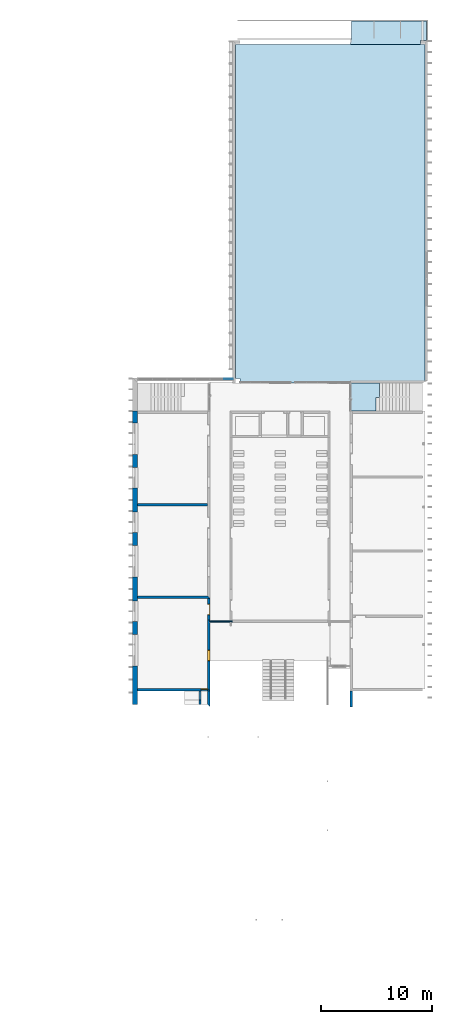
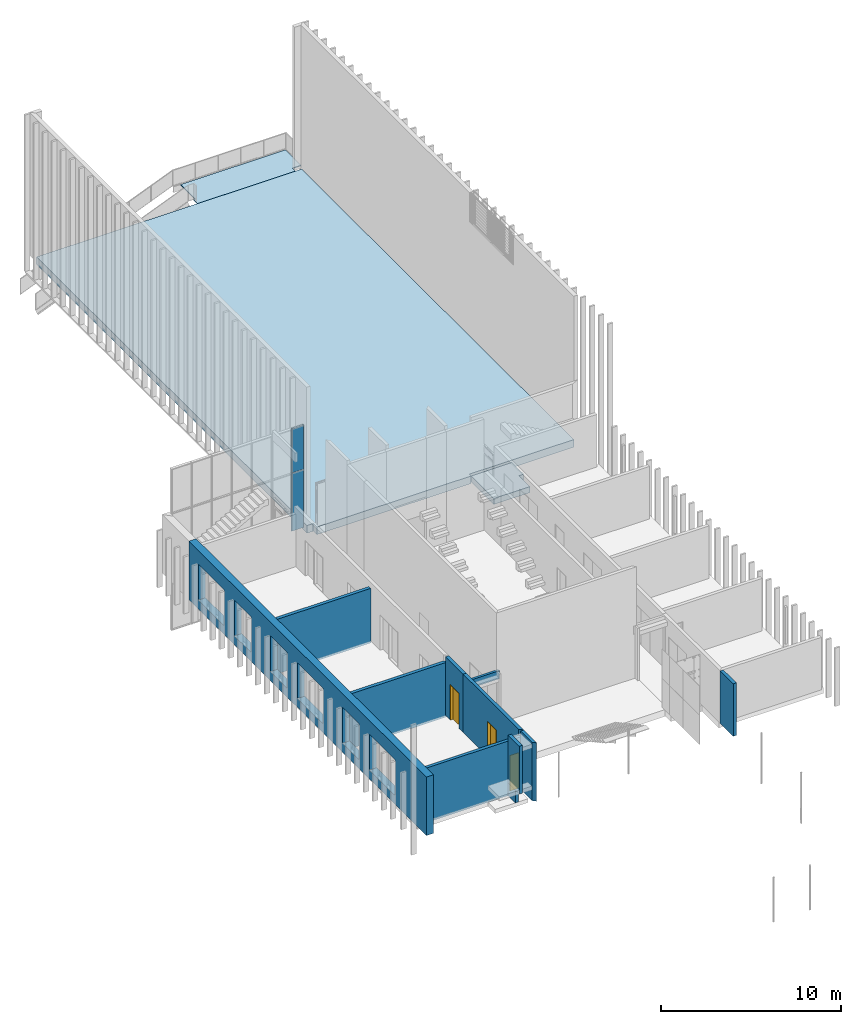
# One storey, part 10 of 62: 11 walls, 3 slabs, 2 doors, 2 plates, 1 window, 9 openings, 1 element without a shape of its own.
"""IFC2X3 building model written with IfcOpenShell, lengths in millimetres."""

from ifc_helpers import new_model, entity, si_unit, converted_unit, derived_unit, money_unit, direction, frame, origin_with_axes, origin_2d_with_axis, place, context, subcontext, project, spatial, polyline, rectangle, outline, extrude, open_shell, faceted_brep, surface_model, source, transform, mapped, material, layer, layer_set, layer_usage, type_object, element, fill, aggregate, save


model = new_model("IFC2X3")

# Units and contexts
model_context = context("Model", 3, precision=0.01, world=origin_with_axes(), true_north=direction((0.0, 1.0)))
body_context = subcontext(model_context, "Body", "Model", "MODEL_VIEW")
ifc_project = project(units=[si_unit("LENGTHUNIT", "METRE", prefix="MILLI"), si_unit("AREAUNIT", "SQUARE_METRE"), si_unit("VOLUMEUNIT", "CUBIC_METRE"), converted_unit("PLANEANGLEUNIT", "DEGREE", entity("IfcPlaneAngleMeasure", 0.0174532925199), si_unit("PLANEANGLEUNIT", "RADIAN"), dimensions=[0, 0, 0, 0, 0, 0, 0]), si_unit("SOLIDANGLEUNIT", "STERADIAN"), money_unit("EUR"), converted_unit("TIMEUNIT", "Year", entity("IfcTimeMeasure", 31556926.0), si_unit("TIMEUNIT", "SECOND"), dimensions=[0, 0, 1, 0, 0, 0, 0]), si_unit("MASSUNIT", "GRAM", prefix="KILO"), si_unit("THERMODYNAMICTEMPERATUREUNIT", "DEGREE_CELSIUS"), si_unit("LUMINOUSINTENSITYUNIT", "LUMEN"), si_unit("ENERGYUNIT", "JOULE", prefix="MEGA"), derived_unit("THERMALCONDUCTANCEUNIT", [(si_unit("POWERUNIT", "WATT"), 1), (si_unit("LENGTHUNIT", "METRE"), -1), (si_unit("THERMODYNAMICTEMPERATUREUNIT", "KELVIN"), -1)]), derived_unit("SPECIFICHEATCAPACITYUNIT", [(si_unit("ENERGYUNIT", "JOULE"), 1), (si_unit("MASSUNIT", "GRAM", prefix="KILO"), -1), (si_unit("THERMODYNAMICTEMPERATUREUNIT", "KELVIN"), -1)]), derived_unit("MASSDENSITYUNIT", [(si_unit("MASSUNIT", "GRAM", prefix="KILO"), 1), (si_unit("VOLUMEUNIT", "CUBIC_METRE"), -1)])], contexts=[model_context])

# Site, building, storey
site_placement = place(None, origin_with_axes())
site = spatial("IfcSite", under=ifc_project, at=site_placement, Name="Puškini 31, Narva", CompositionType="ELEMENT")
building_placement = place(site_placement, origin_with_axes())
building = spatial("IfcBuilding", under=site, at=building_placement, Name="Narva Riigigümnaasium", CompositionType="ELEMENT")
storey_placement = place(building_placement, frame((0.0, 0.0, 660.0), z_axis=(0.0, 0.0, 1.0), x_axis=(1.0, 0.0, 0.0)))
storey = spatial("IfcBuildingStorey", under=building, at=storey_placement, Name="2.korrus +0.66", CompositionType="ELEMENT", Elevation=660.0)

# Curtain wall, plates
curtain_wall_type = type_object("IfcCurtainWallType", Name="Curtain Wall Type", PredefinedType="NOTDEFINED")
curtain_wall_placement = place(storey_placement, frame((29287.8078111, 224154.987122, -3960.0), z_axis=(0.0, 0.0, 1.0), x_axis=(1.0, 0.0, 0.0)))
curtain_wall = element("IfcCurtainWall", 1, at=curtain_wall_placement, inside=storey, type_object=curtain_wall_type, Name="G-KLF-05")
ifc_material_1 = material(Name="Klaas")
plate_type_1 = type_object("IfcPlateType", Name="Main Panel 34 x 2985 x 58", PredefinedType="CURTAIN_PANEL")
plate_1_placement = place(curtain_wall_placement, frame((7400.43847665, 0.0, 9435.00001863), z_axis=(0.0, 0.0, 1.0), x_axis=(1.0, 0.0, 0.0)))
plate_1 = element("IfcPlate", 2, at=plate_1_placement, type_object=plate_type_1, material=ifc_material_1, Name="klaasfassaadi klaas", ObjectType="CURTAIN_PANEL", context=body_context, shape_type="SweptSolid", body=[
    extrude(outline(polyline([(-504.293084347, -1480.00002535), (256.753772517, -1480.00002535), (256.753862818, 1505.000027), (-504.293084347, 1505.000027), (-504.293084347, -1480.00002535)])), frame((0.0, -29.0, 0.0), z_axis=(0.0, 1.0, 0.0), x_axis=(1.0, 0.0, 0.0)), (0.0, 0.0, 1.0), 58.0),
])
plate_type_2 = type_object("IfcPlateType", Name="Main Panel 34 x 3940 x 58", PredefinedType="CURTAIN_PANEL")
plate_2_placement = place(curtain_wall_placement, frame((7400.43848407, 0.0, 5940.0), z_axis=(0.0, 0.0, 1.0), x_axis=(1.0, 0.0, 0.0)))
plate_2 = element("IfcPlate", 3, at=plate_2_placement, type_object=plate_type_2, material=ifc_material_1, Name="klaasfassaadi klaas", ObjectType="CURTAIN_PANEL", context=body_context, shape_type="SweptSolid", body=[
    extrude(outline(polyline([(-504.293082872, -1969.99998033), (256.753868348, -1969.99998033), (256.753868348, 1969.99998033), (-504.29314188, 1969.99998033), (-504.293082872, -1969.99998033)])), frame((0.0, -29.0, 0.0), z_axis=(0.0, 1.0, 0.0), x_axis=(1.0, 0.0, 0.0)), (0.0, 0.0, 1.0), 58.0),
])
aggregate(curtain_wall, [plate_1, plate_2])

# Slabs
ifc_material_2 = material(Name="KON-04_Betoon - Konstuktsioon")
ifc_layer_1 = layer(ifc_material_2, 90.0, ventilated="UNKNOWN")
ifc_material_3 = material(Name="SOJ-04_Soojustus - Mineraal Kõva")
ifc_layer_2 = layer(ifc_material_3, 30.0, ventilated="UNKNOWN")
ifc_material_4 = material(Name="SOJ-06_Soojustus - Plastik Kõva")
ifc_layer_3 = layer(ifc_material_4, 20.0, ventilated="UNKNOWN")
ifc_material_5 = material(Name="Betoon element")
ifc_layer_4 = layer(ifc_material_5, 265.0, ventilated="UNKNOWN")
ifc_layer_set_1 = layer_set([ifc_layer_1, ifc_layer_2, ifc_layer_3, ifc_layer_4], Name="G-VL-02*")
ifc_layer_usage_1 = layer_usage(ifc_layer_set_1, "AXIS3", "NEGATIVE", 405.0)
slab_type_1 = type_object("IfcSlabType", Name="G-VL-02* 405", PredefinedType="NOTDEFINED")
slab_1_placement = place(storey_placement, frame((47499.9999936, 223799.999988, 0.0), z_axis=(0.0, 0.0, 1.0), x_axis=(1.0, 0.0, 0.0)))
element("IfcSlab", 4, at=slab_1_placement, inside=storey, type_object=slab_type_1, material=ifc_layer_usage_1, Name="Vahelagi", PredefinedType="NOTDEFINED", context=body_context, shape_type="SweptSolid", body=[
    extrude(outline(polyline([(0.0, 0.0), (0.0, -2519.99998969), (2308.91774758, -2519.99998969), (2308.91774758, -1310.00002088), (2609.99972542, -1310.00002088), (2609.99972542, 0.0), (0.0, 0.0)])), frame((0.0, 0.0, -405.0), z_axis=(0.0, 0.0, 1.0), x_axis=(1.0, 0.0, 0.0)), (0.0, 0.0, 1.0), 405.0),
])
ifc_material_6 = material(Name="Puit - Põrand")
ifc_layer_5 = layer(ifc_material_6, 20.0, ventilated="UNKNOWN")
ifc_material_7 = material(Name="Karkass")
ifc_layer_6 = layer(ifc_material_7, 33.0, ventilated="UNKNOWN")
ifc_layer_7 = layer(ifc_material_7, 12.0, ventilated="UNKNOWN")
ifc_layer_8 = layer(ifc_material_2, 80.0, ventilated="UNKNOWN")
ifc_layer_9 = layer(ifc_material_5, 320.0, ventilated="UNKNOWN")
ifc_layer_set_2 = layer_set([ifc_layer_5, ifc_layer_6, ifc_layer_7, ifc_layer_8, ifc_layer_2, ifc_layer_3, ifc_layer_9], Name="G-VL-01")
ifc_layer_usage_2 = layer_usage(ifc_layer_set_2, "AXIS3", "NEGATIVE", 515.0)
slab_type_2 = type_object("IfcSlabType", Name="G-VL-01 515", PredefinedType="NOTDEFINED")
slab_2_placement = place(storey_placement, frame((37202.0, 254230.0, 0.0), z_axis=(0.0, 0.0, 1.0), x_axis=(1.0, 0.0, 0.0)))
element("IfcSlab", 5, at=slab_2_placement, inside=storey, type_object=slab_type_2, material=ifc_layer_usage_2, Name="Vahelagi", PredefinedType="NOTDEFINED", context=body_context, shape_type="SweptSolid", body=[
    extrude(outline(polyline([(0.0, 0.0), (0.0, -30029.9999795), (398.000007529, -30029.9999945), (397.999992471, -30429.9999934), (10298.0000003, -30429.9999784), (10298.0, -30229.9999801), (16997.9999877, -30229.9999801), (16997.9999877, 0.0), (0.0, 0.0)])), frame((0.0, 0.0, -515.0), z_axis=(0.0, 0.0, 1.0), x_axis=(1.0, 0.0, 0.0)), (0.0, 0.0, 1.0), 515.0),
])
ifc_material_8 = material(Name="ET-06_Teras - Konstruktsioon")
ifc_layer_10 = layer(ifc_material_8, 50.0, ventilated="UNKNOWN")
ifc_layer_set_3 = layer_set([ifc_layer_10], Name="ET-06_Teras - Konstruktsioon 50")
ifc_layer_usage_3 = layer_usage(ifc_layer_set_3, "AXIS3", "NEGATIVE", 50.0)
slab_type_3 = type_object("IfcSlabType", Name="ET-06_Teras - Konstruktsioon 50", PredefinedType="NOTDEFINED")
slab_3_placement = place(storey_placement, frame((47630.0000007, 256300.0, 0.0), z_axis=(0.0, 0.0, 1.0), x_axis=(1.0, 0.0, 0.0)))
element("IfcSlab", 6, at=slab_3_placement, inside=storey, type_object=slab_type_3, material=ifc_layer_usage_3, Name="Trepimade", PredefinedType="NOTDEFINED", context=body_context, shape_type="SweptSolid", body=[
    extrude(outline(polyline([(0.0, 0.0), (0.0, -1640.0), (-114.038544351, -1640.0), (-114.038544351, -2070.00000032), (6170.00000107, -2070.00000032), (6170.00000107, -1731.1941455), (6718.000001, -1731.1941455), (6718.000001, 0.0), (0.0, 0.0)])), frame((0.0, 0.0, -50.0), z_axis=(0.0, 0.0, 1.0), x_axis=(1.0, 0.0, 0.0)), (0.0, 0.0, 1.0), 50.0),
])

# Wall, openings
ifc_material_9 = material(Name="fassaadiplaat")
ifc_layer_11 = layer(ifc_material_9, 8.0, ventilated="UNKNOWN")
ifc_material_10 = material(Name="Salto-roovitus")
ifc_layer_12 = layer(ifc_material_10, 50.0, ventilated="UNKNOWN")
ifc_material_11 = material(Name="Salto-PIR soojustus")
ifc_layer_13 = layer(ifc_material_11, 50.0, ventilated="UNKNOWN")
ifc_layer_14 = layer(ifc_material_11, 150.0, ventilated="UNKNOWN")
ifc_layer_15 = layer(ifc_material_5, 200.0, ventilated="UNKNOWN")
ifc_material_12 = material(Name="Salto-siseviimistlus-seinad")
ifc_layer_16 = layer(ifc_material_12, 10.0, ventilated="UNKNOWN")
ifc_layer_set_4 = layer_set([ifc_layer_11, ifc_layer_12, ifc_layer_13, ifc_layer_14, ifc_layer_15, ifc_layer_16], Name="G-VS-01")
ifc_layer_usage_4 = layer_usage(ifc_layer_set_4, "AXIS2", "NEGATIVE", 458.0)
wall_type_1 = type_object("IfcWallType", Name="G-VS-01 468", PredefinedType="NOTDEFINED")
wall_1_placement = place(storey_placement, frame((28400.0401775, 194899.999976, 0.0), z_axis=(0.0, 0.0, 1.0), x_axis=(0.0, 1.0, 0.0)))
wall_1 = element("IfcWallStandardCase", 7, at=wall_1_placement, inside=storey, type_object=wall_type_1, material=ifc_layer_usage_4, Name="Välissein", context=body_context, shape_type="SweptSolid", body=[
    extrude(outline(polyline([(2.37781989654e-05, -10.0), (26380.0000226, -10.0), (26380.0000226, 458.0), (2.37781989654e-05, 458.0), (2.37781989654e-05, -10.0)])), origin_with_axes(), (0.0, 0.0, 1.0), 3960.0),
])
opening_1_placement = place(wall_1_placement, frame((23900.0000267, 0.0, 600.0), z_axis=(0.0, 0.0, 1.0), x_axis=(1.0, 0.0, 0.0)))
element("IfcOpeningElement", 8, at=opening_1_placement, cuts=wall_1, Name="G-A-38", context=body_context, shape_type="SweptSolid", body=[
    extrude(rectangle(XDim=2849.99999873, YDim=2430.0, at=origin_2d_with_axis()), frame((0.0, 308.0, 1215.0), z_axis=(0.0, 1.0, 0.0), x_axis=(-1.0, 0.0, 0.0)), (0.0, 0.0, -1.0), 786.0),
    extrude(rectangle(XDim=2849.99999873, YDim=2430.0, at=origin_2d_with_axis()), frame((0.0, 308.0, 1215.0), z_axis=(0.0, -1.0, 0.0), x_axis=(-1.0, 0.0, 0.0)), (0.0, 0.0, -1.0), 618.0),
])
opening_2_placement = place(wall_1_placement, frame((16400.00003, 0.0, 600.0), z_axis=(0.0, 0.0, 1.0), x_axis=(1.0, 0.0, 0.0)))
element("IfcOpeningElement", 9, at=opening_2_placement, cuts=wall_1, Name="G-A-36", context=body_context, shape_type="SweptSolid", body=[
    extrude(rectangle(XDim=1849.99999918, YDim=2430.0, at=origin_2d_with_axis()), frame((0.0, 308.0, 1215.0), z_axis=(0.0, 1.0, 0.0), x_axis=(-1.0, 0.0, 0.0)), (0.0, 0.0, -1.0), 786.0),
    extrude(rectangle(XDim=1849.99999918, YDim=2430.0, at=origin_2d_with_axis()), frame((0.0, 308.0, 1215.0), z_axis=(0.0, -1.0, 0.0), x_axis=(-1.0, 0.0, 0.0)), (0.0, 0.0, -1.0), 618.0),
])
opening_3_placement = place(wall_1_placement, frame((8400.005406, 0.0, 600.0), z_axis=(0.0, 0.0, 1.0), x_axis=(1.0, 0.0, 0.0)))
element("IfcOpeningElement", 10, at=opening_3_placement, cuts=wall_1, Name="G-A-36", context=body_context, shape_type="SweptSolid", body=[
    extrude(rectangle(XDim=1850.0, YDim=2430.0, at=origin_2d_with_axis()), frame((0.0, 308.0, 1215.0), z_axis=(0.0, 1.0, 0.0), x_axis=(-1.0, 0.0, 0.0)), (0.0, 0.0, -1.0), 786.0),
    extrude(rectangle(XDim=1850.0, YDim=2430.0, at=origin_2d_with_axis()), frame((0.0, 308.0, 1215.0), z_axis=(0.0, -1.0, 0.0), x_axis=(-1.0, 0.0, 0.0)), (0.0, 0.0, -1.0), 618.0),
])
opening_4_placement = place(wall_1_placement, frame((20400.0000282, 0.0, 600.0), z_axis=(0.0, 0.0, 1.0), x_axis=(1.0, 0.0, 0.0)))
element("IfcOpeningElement", 11, at=opening_4_placement, cuts=wall_1, Name="G-A-36", context=body_context, shape_type="SweptSolid", body=[
    extrude(rectangle(XDim=1849.99999918, YDim=2430.0, at=origin_2d_with_axis()), frame((0.0, 308.0, 1215.0), z_axis=(0.0, -1.0, 0.0), x_axis=(1.0, 0.0, 0.0)), (0.0, 0.0, 1.0), 786.0),
    extrude(rectangle(XDim=1849.99999918, YDim=2430.0, at=origin_2d_with_axis()), frame((0.0, 308.0, 1215.0), z_axis=(0.0, 1.0, 0.0), x_axis=(1.0, 0.0, 0.0)), (0.0, 0.0, 1.0), 618.0),
])
opening_5_placement = place(wall_1_placement, frame((12900.0000316, 0.0, 600.0), z_axis=(0.0, 0.0, 1.0), x_axis=(1.0, 0.0, 0.0)))
element("IfcOpeningElement", 12, at=opening_5_placement, cuts=wall_1, Name="G-A-38", context=body_context, shape_type="SweptSolid", body=[
    extrude(rectangle(XDim=2849.99999873, YDim=2430.0, at=origin_2d_with_axis()), frame((0.0, 308.0, 1215.0), z_axis=(0.0, -1.0, 0.0), x_axis=(1.0, 0.0, 0.0)), (0.0, 0.0, 1.0), 786.0),
    extrude(rectangle(XDim=2849.99999873, YDim=2430.0, at=origin_2d_with_axis()), frame((0.0, 308.0, 1215.0), z_axis=(0.0, 1.0, 0.0), x_axis=(1.0, 0.0, 0.0)), (0.0, 0.0, 1.0), 618.0),
])
opening_6_placement = place(wall_1_placement, frame((4900.00003512, 0.0, 600.0), z_axis=(0.0, 0.0, 1.0), x_axis=(1.0, 0.0, 0.0)))
element("IfcOpeningElement", 13, at=opening_6_placement, cuts=wall_1, Name="G-A-38", context=body_context, shape_type="SweptSolid", body=[
    extrude(rectangle(XDim=2849.99999873, YDim=2430.0, at=origin_2d_with_axis()), frame((0.0, 308.0, 1215.0), z_axis=(0.0, -1.0, 0.0), x_axis=(1.0, 0.0, 0.0)), (0.0, 0.0, 1.0), 786.0),
    extrude(rectangle(XDim=2849.99999873, YDim=2430.0, at=origin_2d_with_axis()), frame((0.0, 308.0, 1215.0), z_axis=(0.0, 1.0, 0.0), x_axis=(1.0, 0.0, 0.0)), (0.0, 0.0, 1.0), 618.0),
])

# Wall, opening, door
ifc_layer_set_5 = layer_set([ifc_layer_15], Name="G-SS-01")
ifc_layer_usage_5 = layer_usage(ifc_layer_set_5, "AXIS2", "POSITIVE", 0.0)
wall_type_2 = type_object("IfcWallType", Name="G-SS-01 200", PredefinedType="NOTDEFINED")
wall_2_placement = place(storey_placement, frame((28400.0401775, 196149.999994, -140.0), z_axis=(0.0, 0.0, 1.0), x_axis=(1.0, 0.0, 0.0)))
wall_2 = element("IfcWallStandardCase", 14, at=wall_2_placement, inside=storey, type_object=wall_type_2, material=ifc_layer_usage_5, Name="Sisesein", context=body_context, shape_type="SweptSolid", body=[
    extrude(outline(polyline([(10.0, 0.0), (6499.95955941, 0.0), (6289.95955941, 200.0), (10.0, 200.0), (10.0, 0.0)])), origin_with_axes(), (0.0, 0.0, 1.0), 3700.0),
])
opening_7_placement = place(wall_2_placement, frame((5999.95981615, 0.0, 140.0), z_axis=(0.0, 0.0, 1.0), x_axis=(1.0, 0.0, 0.0)))
opening_7 = element("IfcOpeningElement", 15, at=opening_7_placement, cuts=wall_2, Name="G-SU-096", context=body_context, shape_type="SweptSolid", body=[
    extrude(rectangle(XDim=600.000011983, YDim=2400.0, at=origin_2d_with_axis()), frame((0.0, -200.0, 1200.0), z_axis=(0.0, 1.0, 0.0), x_axis=(1.0, 0.0, 0.0)), (0.0, 0.0, 1.0), 600.0),
])
door_style_1 = type_object("IfcDoorStyle", Name="Door 23", ConstructionType="NOTDEFINED", OperationType="SINGLE_SWING_RIGHT", ParameterTakesPrecedence=False, Sizeable=False)
shared_shape_1 = source(origin_with_axes(), body_context, "Body", "Brep", [
    faceted_brep([(-300.000005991, 0.0, 0.0), (-258.000005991, 0.0, 0.0), (-258.000005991, -40.0, 0.0), (-300.000005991, -40.0, 0.0), (-300.000005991, 0.0, 2358.0), (-258.000005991, 0.0, 2358.0), (-258.000005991, -40.0, 2358.0), (-300.000005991, -40.0, 2358.0)], [[[0, 1, 2, 3]], [[0, 4, 5, 1]], [[1, 5, 6, 2]], [[3, 2, 6, 7]], [[4, 0, 3, 7]], [[5, 4, 7, 6]]]),
    faceted_brep([(300.000005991, 0.0, 0.0), (300.000005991, 0.0, 2358.0), (300.000005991, -40.0, 2358.0), (300.000005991, -40.0, 0.0), (258.000005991, 0.0, 0.0), (258.000005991, 0.0, 2358.0), (258.000005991, -40.0, 2358.0), (258.000005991, -40.0, 0.0)], [[[0, 1, 2, 3]], [[0, 4, 5, 1]], [[1, 5, 6, 2]], [[3, 2, 6, 7]], [[4, 0, 3, 7]], [[5, 4, 7, 6]]]),
    faceted_brep([(-300.000005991, 0.0, 2400.0), (-300.000005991, 0.0, 2358.0), (-300.000005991, -40.0, 2358.0), (-300.000005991, -40.0, 2400.0), (300.000005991, 0.0, 2400.0), (300.000005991, 0.0, 2358.0), (258.000005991, 0.0, 2358.0), (-258.000005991, 0.0, 2358.0), (-258.000005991, -40.0, 2358.0), (258.000005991, -40.0, 2358.0), (300.000005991, -40.0, 2358.0), (300.000005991, -40.0, 2400.0)], [[[0, 1, 2, 3]], [[0, 4, 5, 6, 7, 1]], [[1, 7, 8, 2]], [[3, 2, 8, 9, 10, 11]], [[4, 0, 3, 11]], [[5, 4, 11, 10]], [[6, 5, 10, 9]], [[7, 6, 9, 8]]]),
    faceted_brep([(258.000005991, 0.0, 0.0), (258.000005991, -40.0, 0.0), (-258.000005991, -40.0, 0.0), (-258.000005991, 0.0, 0.0), (258.000005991, 0.0, 2358.0), (258.000005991, -40.0, 2358.0), (-258.000005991, -40.0, 2358.0), (-258.000005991, 0.0, 2358.0)], [[[0, 1, 2, 3]], [[4, 5, 1, 0]], [[1, 5, 6, 2]], [[3, 2, 6, 7]], [[0, 3, 7, 4]], [[7, 6, 5, 4]]]),
])
door_1_placement = place(opening_7_placement, frame((-300.000005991, 0.0, 0.0), z_axis=(0.0, 0.0, 1.0), x_axis=(1.0, 0.0, 0.0)))
door_1 = element("IfcDoor", 16, at=door_1_placement, inside=storey, type_object=door_style_1, Name="G-SU-096", ObjectType="DOOR", OverallHeight=2400.0, OverallWidth=600.0, context=body_context, shape_type="MappedRepresentation", body=[
    mapped(shared_shape_1, transform((300.000005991, 200.0, 0.0))),
])
fill(opening_7, door_1)

# Walls
wall_3_placement = place(storey_placement, frame((47499.9999936, 196149.999994, 0.0), z_axis=(0.0, 0.0, 1.0), x_axis=(0.0, -1.0, 0.0)))
element("IfcWallStandardCase", 17, at=wall_3_placement, inside=storey, type_object=wall_type_2, material=ifc_layer_usage_5, Name="Sisesein", context=body_context, shape_type="SweptSolid", body=[
    extrude(outline(polyline([(0.0, 0.0), (1449.99999437, 0.0), (1449.99999437, 200.0), (0.0, 200.0), (0.0, 0.0)])), origin_with_axes(), (0.0, 0.0, 1.0), 3555.0),
])
ifc_layer_usage_6 = layer_usage(ifc_layer_set_5, "AXIS2", "NEGATIVE", 0.0)
wall_4_placement = place(storey_placement, frame((34899.9999932, 196149.999994, 0.0), z_axis=(0.0, 0.0, 1.0), x_axis=(0.0, -1.0, 0.0)))
element("IfcWallStandardCase", 18, at=wall_4_placement, inside=storey, type_object=wall_type_2, material=ifc_layer_usage_6, Name="Sisesein", context=body_context, shape_type="SweptSolid", body=[
    extrude(outline(polyline([(0.0, -200.0), (1249.99999437, -200.0), (1449.99999437, 0.0), (0.0, 0.0), (0.0, -200.0)])), origin_with_axes(), (0.0, 0.0, 1.0), 3960.0),
])
wall_5_placement = place(storey_placement, frame((34100.0, 194900.0, 720.0), z_axis=(0.0, 0.0, 1.0), x_axis=(0.0, 1.0, 0.0)))
element("IfcWallStandardCase", 19, at=wall_5_placement, inside=storey, type_object=wall_type_2, material=ifc_layer_usage_5, Name="Sisesein", context=body_context, shape_type="SweptSolid", body=[
    extrude(outline(polyline([(0.0, 0.0), (1249.99999437, 0.0), (1249.99999437, 200.0), (0.0, 200.0), (0.0, 0.0)])), origin_with_axes(), (0.0, 0.0, 1.0), 3240.0),
])
wall_6_placement = place(storey_placement, frame((34100.0, 195340.000001, -140.0), z_axis=(0.0, 0.0, 1.0), x_axis=(0.0, 1.0, 0.0)))
element("IfcWallStandardCase", 20, at=wall_6_placement, inside=storey, type_object=wall_type_2, material=ifc_layer_usage_5, Name="Sisesein", context=body_context, shape_type="SweptSolid", body=[
    extrude(outline(polyline([(-7.52748974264e-07, 0.0), (809.999993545, 0.0), (809.999993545, 200.0), (-7.52748974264e-07, 200.0), (-7.52748974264e-07, 0.0)])), origin_with_axes(), (0.0, 0.0, 1.0), 860.0),
])
ifc_material_13 = material(Name="SKR-02_Kipsplaat")
ifc_layer_17 = layer(ifc_material_13, 12.5, ventilated="UNKNOWN")
ifc_material_14 = material(Name="SOJ-03_Soojustus - Mineraal Pehme")
ifc_layer_18 = layer(ifc_material_14, 100.0, ventilated="UNKNOWN")
ifc_layer_set_6 = layer_set([ifc_layer_17, ifc_layer_17, ifc_layer_18, ifc_layer_17, ifc_layer_17], Name="G-SS-09")
ifc_layer_usage_7 = layer_usage(ifc_layer_set_6, "AXIS2", "NEGATIVE", 0.0)
wall_type_3 = type_object("IfcWallType", Name="G-SS-09 150", PredefinedType="NOTDEFINED")
wall_7_placement = place(storey_placement, frame((36899.9999995, 202300.000012, 3005.0), z_axis=(0.0, 0.0, 1.0), x_axis=(-1.0, 0.0, 0.0)))
element("IfcWallStandardCase", 21, at=wall_7_placement, inside=storey, type_object=wall_type_3, material=ifc_layer_usage_7, Name="Sisesein", context=body_context, shape_type="SweptSolid", body=[
    extrude(outline(polyline([(0.0, -150.0), (2000.00026253, -150.0), (2000.00026253, 0.0), (0.0, 0.0), (0.0, -150.0)])), origin_with_axes(), (0.0, 0.0, 1.0), 550.0),
])

# Wall, opening, window
ifc_material_15 = material(Name="siseviimistlus-seinad")
ifc_layer_19 = layer(ifc_material_15, 10.0, ventilated="UNKNOWN")
ifc_layer_set_7 = layer_set([ifc_layer_15, ifc_layer_19], Name="G-SS-01-02")
ifc_layer_usage_8 = layer_usage(ifc_layer_set_7, "AXIS2", "NEGATIVE", 0.0)
wall_type_4 = type_object("IfcWallType", Name="G-SS-01-02 210", PredefinedType="NOTDEFINED")
wall_8_placement = place(storey_placement, frame((34899.9997369, 202510.000012, 0.0), z_axis=(0.0, 0.0, 1.0), x_axis=(0.0, -1.0, 0.0)))
wall_8 = element("IfcWallStandardCase", 22, at=wall_8_placement, inside=storey, type_object=wall_type_4, material=ifc_layer_usage_8, Name="Sisesein", context=body_context, shape_type="SweptSolid", body=[
    extrude(outline(polyline([(3.53639961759e-06, -210.0), (6160.00001804, -210.0), (6360.00001804, 0.0), (0.0, 0.0), (3.53639961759e-06, -210.0)])), origin_with_axes(), (0.0, 0.0, 1.0), 3960.0),
])
opening_8_placement = place(wall_8_placement, frame((3181.52867857, 0.0, 0.0), z_axis=(0.0, 0.0, 1.0), x_axis=(1.0, 0.0, 0.0)))
opening_8 = element("IfcOpeningElement", 23, at=opening_8_placement, cuts=wall_8, Name="G-SA-2", context=body_context, shape_type="SweptSolid", body=[
    extrude(rectangle(XDim=1000.0, YDim=2400.0, at=origin_2d_with_axis()), frame((0.0, -210.0, 1200.0), z_axis=(0.0, -1.0, 0.0), x_axis=(-1.0, 0.0, 0.0)), (0.0, 0.0, -1.0), 630.0),
])
window_style = type_object("IfcWindowStyle", Name="Window 23", ConstructionType="NOTDEFINED", OperationType="SINGLE_PANEL", ParameterTakesPrecedence=False, Sizeable=False)
shared_shape_2 = source(origin_with_axes(), body_context, "Body", "SurfaceModel", [
    faceted_brep([(460.0, -210.0, 2360.0), (500.0, -210.0, 2360.0), (500.0, 0.0, 2360.0), (460.0, 0.0, 2360.0), (460.0, -210.0, 40.0), (500.0, -210.0, 40.0), (500.0, 0.0, 40.0), (460.0, 0.0, 40.0)], [[[0, 1, 2, 3]], [[0, 4, 5, 1]], [[1, 5, 6, 2]], [[3, 2, 6, 7]], [[4, 0, 3, 7]], [[5, 4, 7, 6]]]),
    faceted_brep([(-460.0, -210.0, 40.0), (-500.0, -210.0, 40.0), (-500.0, 0.0, 40.0), (-460.0, 0.0, 40.0), (-460.0, -210.0, 2360.0), (-500.0, -210.0, 2360.0), (-500.0, 0.0, 2360.0), (-460.0, 0.0, 2360.0)], [[[0, 1, 2, 3]], [[0, 4, 5, 1]], [[1, 5, 6, 2]], [[3, 2, 6, 7]], [[4, 0, 3, 7]], [[5, 4, 7, 6]]]),
    faceted_brep([(460.0, -210.0, 40.0), (500.0, -210.0, 40.0), (500.0, 0.0, 40.0), (460.0, 0.0, 40.0), (-460.0, -210.0, 40.0), (-500.0, -210.0, 40.0), (-500.0, -210.0, 0.0), (500.0, -210.0, 0.0), (500.0, 0.0, 0.0), (-500.0, 0.0, 0.0), (-500.0, 0.0, 40.0), (-460.0, 0.0, 40.0)], [[[0, 1, 2, 3]], [[0, 4, 5, 6, 7, 1]], [[1, 7, 8, 2]], [[3, 2, 8, 9, 10, 11]], [[4, 0, 3, 11]], [[5, 4, 11, 10]], [[6, 5, 10, 9]], [[7, 6, 9, 8]]]),
    faceted_brep([(-460.0, -210.0, 2360.0), (-500.0, -210.0, 2360.0), (-500.0, 0.0, 2360.0), (-460.0, 0.0, 2360.0), (460.0, -210.0, 2360.0), (500.0, -210.0, 2360.0), (500.0, -210.0, 2400.0), (-500.0, -210.0, 2400.0), (-500.0, 0.0, 2400.0), (500.0, 0.0, 2400.0), (500.0, 0.0, 2360.0), (460.0, 0.0, 2360.0)], [[[0, 1, 2, 3]], [[0, 4, 5, 6, 7, 1]], [[1, 7, 8, 2]], [[3, 2, 8, 9, 10, 11]], [[4, 0, 3, 11]], [[5, 4, 11, 10]], [[6, 5, 10, 9]], [[7, 6, 9, 8]]]),
    surface_model("IfcShellBasedSurfaceModel", [(460.0, -35.0, 40.0), (460.0, -35.0, 2360.0), (-460.0, -35.0, 2360.0), (-460.0, -35.0, 40.0)], [open_shell([[[0, 1, 2, 3]]])]),
    surface_model("IfcShellBasedSurfaceModel", [(460.0, -15.0, 40.0), (-460.0, -15.0, 40.0), (-460.0, -15.0, 2360.0), (460.0, -15.0, 2360.0)], [open_shell([[[0, 1, 2, 3]]])]),
])
window_placement = place(opening_8_placement, frame((-500.0, 0.0, 0.0), z_axis=(0.0, 0.0, 1.0), x_axis=(1.0, 0.0, 0.0)))
window = element("IfcWindow", 24, at=window_placement, inside=storey, type_object=window_style, Name="G-SA-2", ObjectType="WINDOW", OverallHeight=2400.0, OverallWidth=1000.0, context=body_context, shape_type="MappedRepresentation", body=[
    mapped(shared_shape_2, transform((500.0, 0.0, 0.0))),
])
fill(opening_8, window)

# Walls
wall_9_placement = place(storey_placement, frame((28400.0401775, 204670.000007, -140.0), z_axis=(0.0, 0.0, 1.0), x_axis=(1.0, 0.0, 0.0)))
element("IfcWallStandardCase", 25, at=wall_9_placement, inside=storey, type_object=wall_type_4, material=ifc_layer_usage_8, Name="Sisesein", context=body_context, shape_type="SweptSolid", body=[
    extrude(outline(polyline([(10.0, -210.0), (6499.95949373, -210.0), (6289.95948666, 0.0), (10.0, 0.0), (10.0, -210.0)])), origin_with_axes(), (0.0, 0.0, 1.0), 3700.0),
])
wall_10_placement = place(storey_placement, frame((28400.0401775, 212970.000924, -140.0), z_axis=(0.0, 0.0, 1.0), x_axis=(1.0, 0.0, 0.0)))
element("IfcWallStandardCase", 26, at=wall_10_placement, inside=storey, type_object=wall_type_4, material=ifc_layer_usage_8, Name="Sisesein", context=body_context, shape_type="SweptSolid", body=[
    extrude(outline(polyline([(10.0, -210.0), (6289.95921419, -210.0), (6289.95920712, 0.0), (10.0, 0.0), (10.0, -210.0)])), origin_with_axes(), (0.0, 0.0, 1.0), 3700.0),
])

# Wall, opening, door
wall_11_placement = place(storey_placement, frame((34899.9996642, 204670.000007, 0.0), z_axis=(0.0, 0.0, 1.0), x_axis=(3.36798606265e-08, -1.0, 0.0)))
wall_11 = element("IfcWallStandardCase", 27, at=wall_11_placement, inside=storey, type_object=wall_type_4, material=ifc_layer_usage_8, Name="Sisesein", context=body_context, shape_type="SweptSolid", body=[
    extrude(outline(polyline([(209.999992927, -210.0), (2159.99999134, -210.0), (2159.99999487, 0.0), (210.0, 0.0), (209.999992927, -210.0)])), origin_with_axes(), (0.0, 0.0, 1.0), 3960.0),
])
opening_9_placement = place(wall_11_placement, frame((1219.99999646, 0.0, 0.0), z_axis=(0.0, 0.0, 1.0), x_axis=(1.0, 0.0, 0.0)))
opening_9 = element("IfcOpeningElement", 28, at=opening_9_placement, cuts=wall_11, Name="G-SU-070", context=body_context, shape_type="SweptSolid", body=[
    extrude(rectangle(XDim=1000.0, YDim=2400.0, at=origin_2d_with_axis()), frame((0.0, -210.0, 1200.0), z_axis=(-3.36798606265e-08, -1.0, 0.0), x_axis=(-1.0, 3.36798608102e-08, 0.0)), (0.0, 0.0, -1.0), 630.0),
])
door_style_2 = type_object("IfcDoorStyle", Name="Door 23", ConstructionType="NOTDEFINED", OperationType="SINGLE_SWING_LEFT", ParameterTakesPrecedence=False, Sizeable=False)
shared_shape_3 = source(origin_with_axes(), body_context, "Body", "Brep", [
    faceted_brep([(500.0, 0.0, 0.0), (500.0, -210.0, 0.0), (460.0, -210.0, 0.0), (460.0, 0.0, 0.0), (500.0, 0.0, 2360.0), (500.0, -210.0, 2360.0), (460.0, -210.0, 2360.0), (460.0, 0.0, 2360.0)], [[[0, 1, 2, 3]], [[4, 5, 1, 0]], [[1, 5, 6, 2]], [[3, 2, 6, 7]], [[0, 3, 7, 4]], [[7, 6, 5, 4]]]),
    faceted_brep([(-500.0, 0.0, 0.0), (-500.0, -210.0, 0.0), (-500.0, -210.0, 2360.0), (-500.0, 0.0, 2360.0), (-460.0, 0.0, 0.0), (-460.0, -210.0, 0.0), (-460.0, -210.0, 2360.0), (-460.0, 0.0, 2360.0)], [[[0, 1, 2, 3]], [[4, 5, 1, 0]], [[1, 5, 6, 2]], [[3, 2, 6, 7]], [[0, 3, 7, 4]], [[7, 6, 5, 4]]]),
    faceted_brep([(500.0, 0.0, 2400.0), (500.0, -210.0, 2400.0), (500.0, -210.0, 2360.0), (500.0, 0.0, 2360.0), (-500.0, 0.0, 2400.0), (-500.0, -210.0, 2400.0), (-500.0, -210.0, 2360.0), (-460.0, -210.0, 2360.0), (460.0, -210.0, 2360.0), (460.0, 0.0, 2360.0), (-460.0, 0.0, 2360.0), (-500.0, 0.0, 2360.0)], [[[0, 1, 2, 3]], [[4, 5, 1, 0]], [[1, 5, 6, 7, 8, 2]], [[3, 2, 8, 9]], [[0, 3, 9, 10, 11, 4]], [[11, 6, 5, 4]], [[10, 7, 6, 11]], [[9, 8, 7, 10]]]),
    faceted_brep([(-460.0, 0.0, 0.0), (460.0, 0.0, 0.0), (460.0, -40.0, 0.0), (-460.0, -40.0, 0.0), (-460.0, 0.0, 2360.0), (460.0, 0.0, 2360.0), (460.0, -40.0, 2360.0), (-460.0, -40.0, 2360.0)], [[[0, 1, 2, 3]], [[0, 4, 5, 1]], [[1, 5, 6, 2]], [[3, 2, 6, 7]], [[4, 0, 3, 7]], [[5, 4, 7, 6]]]),
])
door_2_placement = place(opening_9_placement, frame((-500.0, 0.0, 0.0), z_axis=(0.0, 0.0, 1.0), x_axis=(1.0, 0.0, 0.0)))
door_2 = element("IfcDoor", 29, at=door_2_placement, inside=storey, type_object=door_style_2, Name="G-SU-070", ObjectType="DOOR", OverallHeight=2400.0, OverallWidth=1000.0, context=body_context, shape_type="MappedRepresentation", body=[
    mapped(shared_shape_3, transform((500.000007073, -4.10894358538e-05, 0.0))),
])
fill(opening_9, door_2)

save(model, "model.ifc")
